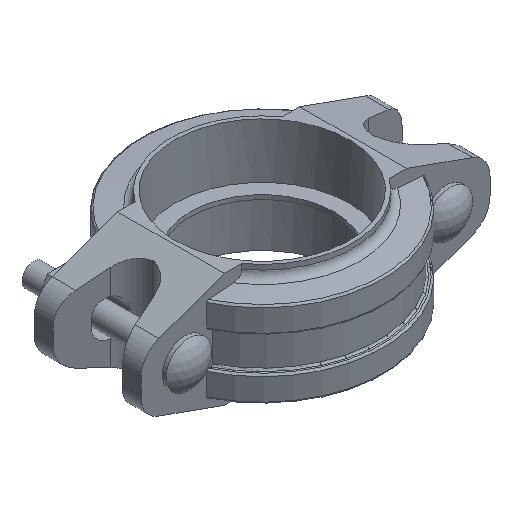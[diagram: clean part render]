
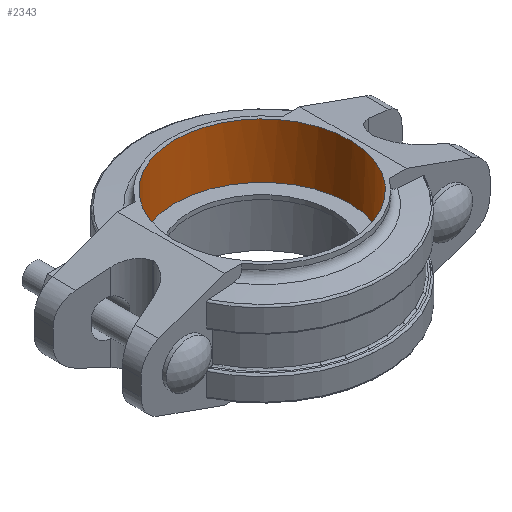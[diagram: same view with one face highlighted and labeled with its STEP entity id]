
A CAD part, isometric view. The second image highlights one B-rep face of the part: STEP entity #2343.
In plain terms, the highlighted cylindrical face has radius 36.513 mm (diameter 73.025 mm), a full revolution.
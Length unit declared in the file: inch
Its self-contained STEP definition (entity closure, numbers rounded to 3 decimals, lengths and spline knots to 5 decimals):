
#212=FACE_OUTER_BOUND('',#331,.T.);
#331=EDGE_LOOP('',(#1502,#1503,#1504,#1505,#1506,#1507));
#458=LINE('',#3413,#641);
#641=VECTOR('',#2744,1.4375);
#827=CIRCLE('',#2484,1.4375);
#828=CIRCLE('',#2485,1.4375);
#829=CIRCLE('',#2487,1.4375);
#830=CIRCLE('',#2488,1.4375);
#917=VERTEX_POINT('',#3407);
#918=VERTEX_POINT('',#3408);
#919=VERTEX_POINT('',#3412);
#920=VERTEX_POINT('',#3414);
#1152=EDGE_CURVE('',#917,#918,#827,.T.);
#1153=EDGE_CURVE('',#918,#917,#828,.T.);
#1154=EDGE_CURVE('',#918,#919,#458,.T.);
#1155=EDGE_CURVE('',#920,#919,#829,.T.);
#1156=EDGE_CURVE('',#919,#920,#830,.T.);
#1502=ORIENTED_EDGE('',*,*,#1152,.T.);
#1503=ORIENTED_EDGE('',*,*,#1154,.T.);
#1504=ORIENTED_EDGE('',*,*,#1155,.F.);
#1505=ORIENTED_EDGE('',*,*,#1156,.F.);
#1506=ORIENTED_EDGE('',*,*,#1154,.F.);
#1507=ORIENTED_EDGE('',*,*,#1153,.T.);
#2183=CYLINDRICAL_SURFACE('',#2486,1.4375);
#2343=ADVANCED_FACE('',(#212),#2183,.F.);
#2484=AXIS2_PLACEMENT_3D('',#3409,#2738,#2739);
#2485=AXIS2_PLACEMENT_3D('',#3410,#2740,#2741);
#2486=AXIS2_PLACEMENT_3D('',#3411,#2742,#2743);
#2487=AXIS2_PLACEMENT_3D('',#3415,#2745,#2746);
#2488=AXIS2_PLACEMENT_3D('',#3416,#2747,#2748);
#2738=DIRECTION('center_axis',(0.,0.,-1.));
#2739=DIRECTION('ref_axis',(0.,-1.,0.));
#2740=DIRECTION('center_axis',(0.,0.,-1.));
#2741=DIRECTION('ref_axis',(0.,-1.,0.));
#2742=DIRECTION('center_axis',(0.,0.,-1.));
#2743=DIRECTION('ref_axis',(0.,-1.,0.));
#2744=DIRECTION('',(0.,0.,1.));
#2745=DIRECTION('center_axis',(0.,0.,-1.));
#2746=DIRECTION('ref_axis',(-1.,0.,0.));
#2747=DIRECTION('center_axis',(0.,0.,-1.));
#2748=DIRECTION('ref_axis',(-1.,0.,0.));
#3407=CARTESIAN_POINT('',(-1.4375,0.,0.035));
#3408=CARTESIAN_POINT('',(0.,1.4375,0.035));
#3409=CARTESIAN_POINT('Origin',(0.,0.,0.035));
#3410=CARTESIAN_POINT('Origin',(0.,0.,0.035));
#3411=CARTESIAN_POINT('Origin',(0.,0.,0.));
#3412=CARTESIAN_POINT('',(0.,1.4375,0.94));
#3413=CARTESIAN_POINT('',(0.,1.4375,0.));
#3414=CARTESIAN_POINT('',(1.13666,0.88,0.94));
#3415=CARTESIAN_POINT('Origin',(0.,0.,0.94));
#3416=CARTESIAN_POINT('Origin',(0.,0.,0.94));
